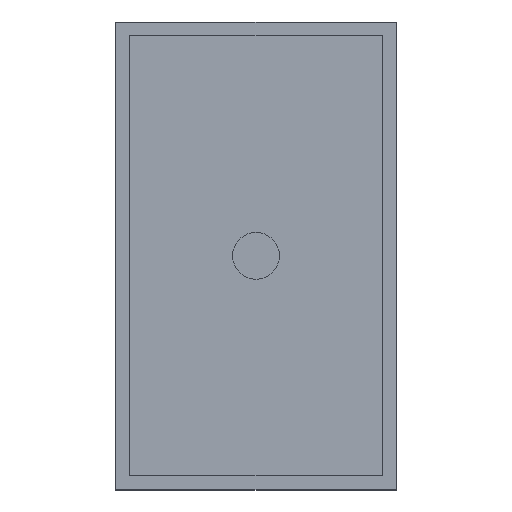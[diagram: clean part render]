
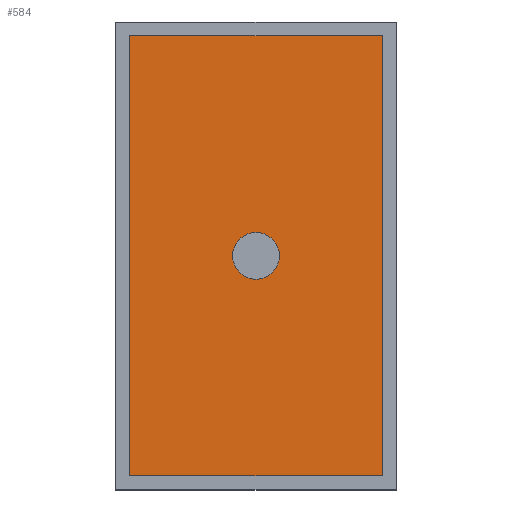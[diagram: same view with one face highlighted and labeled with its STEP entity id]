
A CAD part, top view. The second image highlights one B-rep face of the part: STEP entity #584.
In plain terms, the highlighted planar face has unit normal (0, 0, 1).
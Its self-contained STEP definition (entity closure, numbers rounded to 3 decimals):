
#395 = VERTEX_POINT('',#396);
#396 = CARTESIAN_POINT('',(-1.35,-2.35,1.));
#403 = PLANE('',#404);
#404 = AXIS2_PLACEMENT_3D('',#405,#406,#407);
#405 = CARTESIAN_POINT('',(-1.35,-2.35,0.2));
#406 = DIRECTION('',(1.,0.,-0.));
#407 = DIRECTION('',(0.,0.,1.));
#415 = PLANE('',#416);
#416 = AXIS2_PLACEMENT_3D('',#417,#418,#419);
#417 = CARTESIAN_POINT('',(-1.35,-2.35,0.2));
#418 = DIRECTION('',(-0.,1.,0.));
#419 = DIRECTION('',(0.,0.,1.));
#456 = VERTEX_POINT('',#457);
#457 = CARTESIAN_POINT('',(-1.35,2.35,1.));
#471 = PLANE('',#472);
#472 = AXIS2_PLACEMENT_3D('',#473,#474,#475);
#473 = CARTESIAN_POINT('',(-1.35,2.35,0.2));
#474 = DIRECTION('',(-0.,1.,0.));
#475 = DIRECTION('',(0.,0.,1.));
#483 = EDGE_CURVE('',#395,#456,#484,.T.);
#484 = SURFACE_CURVE('',#485,(#489,#496),.PCURVE_S1.);
#485 = LINE('',#486,#487);
#486 = CARTESIAN_POINT('',(-1.35,-2.35,1.));
#487 = VECTOR('',#488,1.);
#488 = DIRECTION('',(-0.,1.,0.));
#489 = PCURVE('',#403,#490);
#490 = DEFINITIONAL_REPRESENTATION('',(#491),#495);
#491 = LINE('',#492,#493);
#492 = CARTESIAN_POINT('',(0.8,0.));
#493 = VECTOR('',#494,1.);
#494 = DIRECTION('',(0.,-1.));
#495 = ( GEOMETRIC_REPRESENTATION_CONTEXT(2) 
PARAMETRIC_REPRESENTATION_CONTEXT() REPRESENTATION_CONTEXT('2D SPACE',''
  ) );
#496 = PCURVE('',#497,#502);
#497 = PLANE('',#498);
#498 = AXIS2_PLACEMENT_3D('',#499,#500,#501);
#499 = CARTESIAN_POINT('',(-1.35,-2.35,1.));
#500 = DIRECTION('',(0.,0.,1.));
#501 = DIRECTION('',(1.,0.,-0.));
#502 = DEFINITIONAL_REPRESENTATION('',(#503),#507);
#503 = LINE('',#504,#505);
#504 = CARTESIAN_POINT('',(0.,0.));
#505 = VECTOR('',#506,1.);
#506 = DIRECTION('',(0.,1.));
#507 = ( GEOMETRIC_REPRESENTATION_CONTEXT(2) 
PARAMETRIC_REPRESENTATION_CONTEXT() REPRESENTATION_CONTEXT('2D SPACE',''
  ) );
#536 = EDGE_CURVE('',#395,#537,#539,.T.);
#537 = VERTEX_POINT('',#538);
#538 = CARTESIAN_POINT('',(1.35,-2.35,1.));
#539 = SURFACE_CURVE('',#540,(#544,#551),.PCURVE_S1.);
#540 = LINE('',#541,#542);
#541 = CARTESIAN_POINT('',(-1.35,-2.35,1.));
#542 = VECTOR('',#543,1.);
#543 = DIRECTION('',(1.,0.,-0.));
#544 = PCURVE('',#415,#545);
#545 = DEFINITIONAL_REPRESENTATION('',(#546),#550);
#546 = LINE('',#547,#548);
#547 = CARTESIAN_POINT('',(0.8,0.));
#548 = VECTOR('',#549,1.);
#549 = DIRECTION('',(0.,1.));
#550 = ( GEOMETRIC_REPRESENTATION_CONTEXT(2) 
PARAMETRIC_REPRESENTATION_CONTEXT() REPRESENTATION_CONTEXT('2D SPACE',''
  ) );
#551 = PCURVE('',#497,#552);
#552 = DEFINITIONAL_REPRESENTATION('',(#553),#557);
#553 = LINE('',#554,#555);
#554 = CARTESIAN_POINT('',(0.,0.));
#555 = VECTOR('',#556,1.);
#556 = DIRECTION('',(1.,0.));
#557 = ( GEOMETRIC_REPRESENTATION_CONTEXT(2) 
PARAMETRIC_REPRESENTATION_CONTEXT() REPRESENTATION_CONTEXT('2D SPACE',''
  ) );
#573 = PLANE('',#574);
#574 = AXIS2_PLACEMENT_3D('',#575,#576,#577);
#575 = CARTESIAN_POINT('',(1.35,-2.35,0.2));
#576 = DIRECTION('',(1.,0.,-0.));
#577 = DIRECTION('',(0.,0.,1.));
#584 = ADVANCED_FACE('',(#585,#633),#497,.T.);
#585 = FACE_BOUND('',#586,.T.);
#586 = EDGE_LOOP('',(#587,#588,#589,#612));
#587 = ORIENTED_EDGE('',*,*,#483,.F.);
#588 = ORIENTED_EDGE('',*,*,#536,.T.);
#589 = ORIENTED_EDGE('',*,*,#590,.T.);
#590 = EDGE_CURVE('',#537,#591,#593,.T.);
#591 = VERTEX_POINT('',#592);
#592 = CARTESIAN_POINT('',(1.35,2.35,1.));
#593 = SURFACE_CURVE('',#594,(#598,#605),.PCURVE_S1.);
#594 = LINE('',#595,#596);
#595 = CARTESIAN_POINT('',(1.35,-2.35,1.));
#596 = VECTOR('',#597,1.);
#597 = DIRECTION('',(-0.,1.,0.));
#598 = PCURVE('',#497,#599);
#599 = DEFINITIONAL_REPRESENTATION('',(#600),#604);
#600 = LINE('',#601,#602);
#601 = CARTESIAN_POINT('',(2.7,0.));
#602 = VECTOR('',#603,1.);
#603 = DIRECTION('',(0.,1.));
#604 = ( GEOMETRIC_REPRESENTATION_CONTEXT(2) 
PARAMETRIC_REPRESENTATION_CONTEXT() REPRESENTATION_CONTEXT('2D SPACE',''
  ) );
#605 = PCURVE('',#573,#606);
#606 = DEFINITIONAL_REPRESENTATION('',(#607),#611);
#607 = LINE('',#608,#609);
#608 = CARTESIAN_POINT('',(0.8,0.));
#609 = VECTOR('',#610,1.);
#610 = DIRECTION('',(0.,-1.));
#611 = ( GEOMETRIC_REPRESENTATION_CONTEXT(2) 
PARAMETRIC_REPRESENTATION_CONTEXT() REPRESENTATION_CONTEXT('2D SPACE',''
  ) );
#612 = ORIENTED_EDGE('',*,*,#613,.F.);
#613 = EDGE_CURVE('',#456,#591,#614,.T.);
#614 = SURFACE_CURVE('',#615,(#619,#626),.PCURVE_S1.);
#615 = LINE('',#616,#617);
#616 = CARTESIAN_POINT('',(-1.35,2.35,1.));
#617 = VECTOR('',#618,1.);
#618 = DIRECTION('',(1.,0.,-0.));
#619 = PCURVE('',#497,#620);
#620 = DEFINITIONAL_REPRESENTATION('',(#621),#625);
#621 = LINE('',#622,#623);
#622 = CARTESIAN_POINT('',(0.,4.7));
#623 = VECTOR('',#624,1.);
#624 = DIRECTION('',(1.,0.));
#625 = ( GEOMETRIC_REPRESENTATION_CONTEXT(2) 
PARAMETRIC_REPRESENTATION_CONTEXT() REPRESENTATION_CONTEXT('2D SPACE',''
  ) );
#626 = PCURVE('',#471,#627);
#627 = DEFINITIONAL_REPRESENTATION('',(#628),#632);
#628 = LINE('',#629,#630);
#629 = CARTESIAN_POINT('',(0.8,0.));
#630 = VECTOR('',#631,1.);
#631 = DIRECTION('',(0.,1.));
#632 = ( GEOMETRIC_REPRESENTATION_CONTEXT(2) 
PARAMETRIC_REPRESENTATION_CONTEXT() REPRESENTATION_CONTEXT('2D SPACE',''
  ) );
#633 = FACE_BOUND('',#634,.T.);
#634 = EDGE_LOOP('',(#635));
#635 = ORIENTED_EDGE('',*,*,#636,.F.);
#636 = EDGE_CURVE('',#637,#637,#639,.T.);
#637 = VERTEX_POINT('',#638);
#638 = CARTESIAN_POINT('',(0.25,0.,1.));
#639 = SURFACE_CURVE('',#640,(#645,#652),.PCURVE_S1.);
#640 = CIRCLE('',#641,0.25);
#641 = AXIS2_PLACEMENT_3D('',#642,#643,#644);
#642 = CARTESIAN_POINT('',(0.,0.,1.));
#643 = DIRECTION('',(0.,0.,1.));
#644 = DIRECTION('',(1.,0.,-0.));
#645 = PCURVE('',#497,#646);
#646 = DEFINITIONAL_REPRESENTATION('',(#647),#651);
#647 = CIRCLE('',#648,0.25);
#648 = AXIS2_PLACEMENT_2D('',#649,#650);
#649 = CARTESIAN_POINT('',(1.35,2.35));
#650 = DIRECTION('',(1.,0.));
#651 = ( GEOMETRIC_REPRESENTATION_CONTEXT(2) 
PARAMETRIC_REPRESENTATION_CONTEXT() REPRESENTATION_CONTEXT('2D SPACE',''
  ) );
#652 = PCURVE('',#653,#658);
#653 = CYLINDRICAL_SURFACE('',#654,0.25);
#654 = AXIS2_PLACEMENT_3D('',#655,#656,#657);
#655 = CARTESIAN_POINT('',(0.,0.,0.7));
#656 = DIRECTION('',(0.,0.,1.));
#657 = DIRECTION('',(1.,0.,-0.));
#658 = DEFINITIONAL_REPRESENTATION('',(#659),#663);
#659 = LINE('',#660,#661);
#660 = CARTESIAN_POINT('',(0.,0.3));
#661 = VECTOR('',#662,1.);
#662 = DIRECTION('',(1.,0.));
#663 = ( GEOMETRIC_REPRESENTATION_CONTEXT(2) 
PARAMETRIC_REPRESENTATION_CONTEXT() REPRESENTATION_CONTEXT('2D SPACE',''
  ) );
